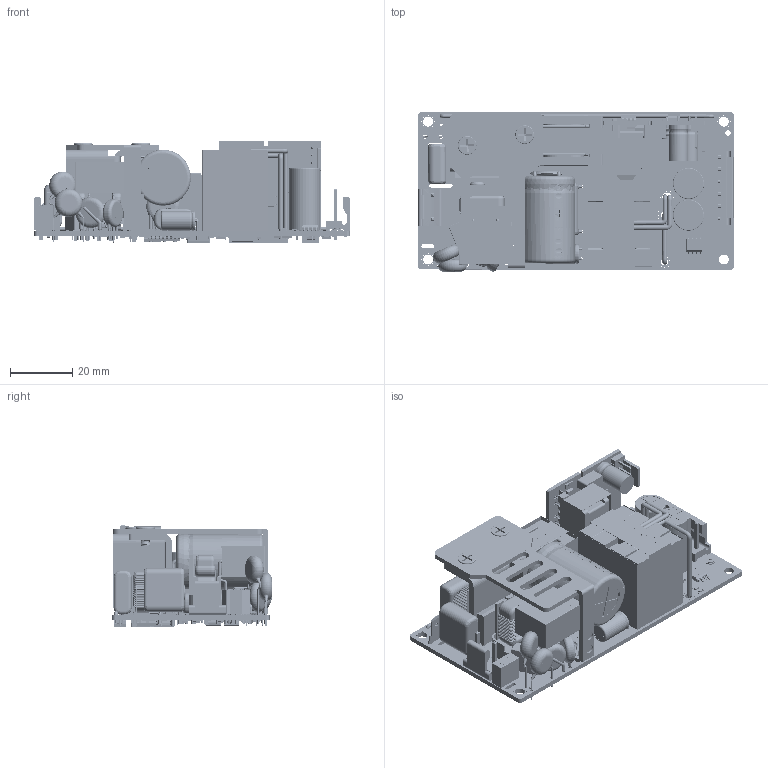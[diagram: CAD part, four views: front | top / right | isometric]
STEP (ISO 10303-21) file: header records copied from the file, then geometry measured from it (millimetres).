
FILE_DESCRIPTION((''),'2;1');
FILE_NAME('NCF150S24K_ASM','2024-09-10T13:46:15',('Admin'),(''),'CREO PARAMETRIC BY PTC INC, 2021063','CREO PARAMETRIC BY PTC INC, 2021063','');
FILE_SCHEMA(('AUTOMOTIVE_DESIGN { 1 0 10303 214 1 1 1 1 }'));
Products named in the file (117): 1805561_NEW_INSERT_AF0; 1805561_NEW_CHIP_AF0; G1-C0001; 1805561_NEW_ASM_ASM; CHIP-3216-CAP; CHIP-2012-CAP; CHIP-1608-CAP; 6021242-FET11D5A650VRM12N650LD; 6031220009-DIODE1A1000V-FM4007; 6031477-DIODE1A1000V-HY_HS1ML; 6031478-DIODE-1A200V-HY_HS1DL; 6031625-DIODE1N4148WSG-SOD323; 6035090005-DIODE5A600VES5J-W; 6035090006-DIODE0D2A75V_BAS416; 6031648-DIODEBZT52-C22S; 6061358-IC-SHUNT-TL431; 6061367-IC-PHOTO-CT1019-CT; 6061368-IC-SYNCH_TEA2095T_1; 6061369-IC-PWM-TEA2016AAT-1J; 6021245-FET90A1000V_FDFN5X6-8L; 5401608012_RES2D2KF1608; 5403202015-RES0D25OHMF-LR2512; 5403212009-RES3216-2R2J; 5403212025-RES-10OHMJ1206; 5403212041-RES47OHMJ1206; 5403212169-RES10MOHMJ1206; 5403216035-RES3D9MJ1206; 5403228001-RES0OHMJ0805; 5403230041-RES470OHMF0603; 5405014069-RES220KF0603; 5405017027-RES100KF0603; 5405019004-RES10OHMJ0805; 5405020044-RES220OHMF0805; 5405020048-RES47OHMF0805; 5405020123-RES0OHMJ0603; 5405020145-RES2D4OHMF0805; 5405020169-RES4D7OHMJ0603; 5405023040-RES2D2MJ0805; 5405023104-RES1KF0603; 5405020177-RES91K0603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
Assembly tree (178 placements, depth 5):
  NCF150S24K_ASM
    1805561_NEW_ASM_ASM
      1805561_NEW_INSERT_AF0
      1805561_NEW_CHIP_AF0
      G1-C0001
    CHIP-3216-CAP  x4
    CHIP-2012-CAP  x2
    CHIP-1608-CAP  x12
    6021242-FET11D5A650VRM12N650LD  x2
    6031220009-DIODE1A1000V-FM4007
    6031477-DIODE1A1000V-HY_HS1ML
    6031478-DIODE-1A200V-HY_HS1DL
    6031625-DIODE1N4148WSG-SOD323  x3
    6035090005-DIODE5A600VES5J-W
    6035090006-DIODE0D2A75V_BAS416
    6031648-DIODEBZT52-C22S
    6061358-IC-SHUNT-TL431
    6061367-IC-PHOTO-CT1019-CT  x2
    6061368-IC-SYNCH_TEA2095T_1
    6061369-IC-PWM-TEA2016AAT-1J
    6021245-FET90A1000V_FDFN5X6-8L  x2
    5401608012_RES2D2KF1608
    5403202015-RES0D25OHMF-LR2512
    5403212009-RES3216-2R2J
    5403212025-RES-10OHMJ1206
    5403212041-RES47OHMJ1206
    5403212169-RES10MOHMJ1206
    5403216035-RES3D9MJ1206  x4
    5403228001-RES0OHMJ0805
    5403230041-RES470OHMF0603
    5405014069-RES220KF0603  x3
    5405017027-RES100KF0603  x2
    5405019004-RES10OHMJ0805  x4
    5405020044-RES220OHMF0805
    5405020048-RES47OHMF0805  x2
    5405020123-RES0OHMJ0603  x3
    5405020145-RES2D4OHMF0805
    5405020169-RES4D7OHMJ0603  x2
    5405023040-RES2D2MJ0805  x2
    5405023104-RES1KF0603
    5405020177-RES91K0603
    5405020201-RES18KF0603  x3
    5405024001-THERMISTOR100KBIP120
    5951088-THERMISTOR2D5OHM5A
    6265072_F1_FUSE_250V_3_15A  x2
    3025783-CHOKE370MH-TRODAL
    4001573178-CAP0D33UF275V_X2
    3025797-CHOKE15MH-TD1515
    6203224453-CONNECTOR3P-AMP
    4001573177-CAP0D47UF450VBEND
    3025784-CHOKE-TROIDAL10T
    4065015002-CAP0_01UF1KVCERMIC
    4005092-CAP0D027UF1000V
    4005003127-CAP100UF35V_BIP120
    4005008110
    3025788-TRANS-RM5100UH-BIP100_ASM
      5030145-BOBIN-RM5-4PIN_AF0
      6101098-CORE-RM5-PL13  x2
      3025788-TAPE2
      3025788-TAPE1
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Bounding box: 101.62 x 51.65 x 33.09 mm (x, y, z)
Volume: 52969.7 mm3; surface area: 87841.9 mm2
Topology: 256 solids, 257 shells, 25497 faces, 68335 edges, 44333 vertices
Faces by surface type: plane 19850, cylinder 3662, torus 1218, bspline 393, sphere 274, extrusion 68, cone 30, revolution 2
Entity records: 729297 total; most frequent: CARTESIAN_POINT 146081, ORIENTED_EDGE 101056, DIRECTION 92866, EDGE_CURVE 50532, VECTOR 39560, LINE 39496, VERTEX_POINT 32713, PRESENTATION_STYLE_ASSIGNMENT 27642
